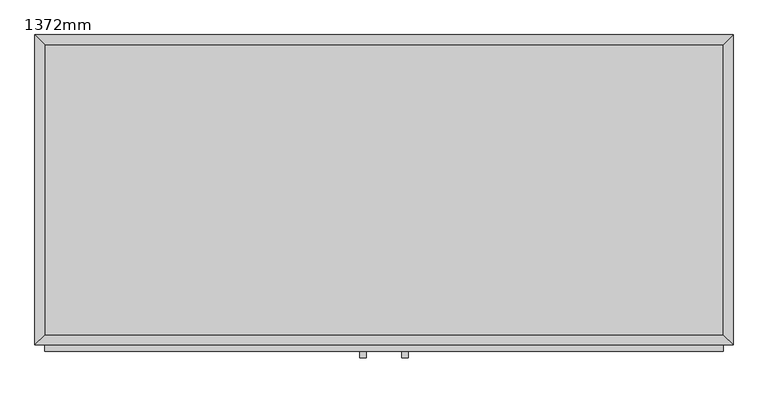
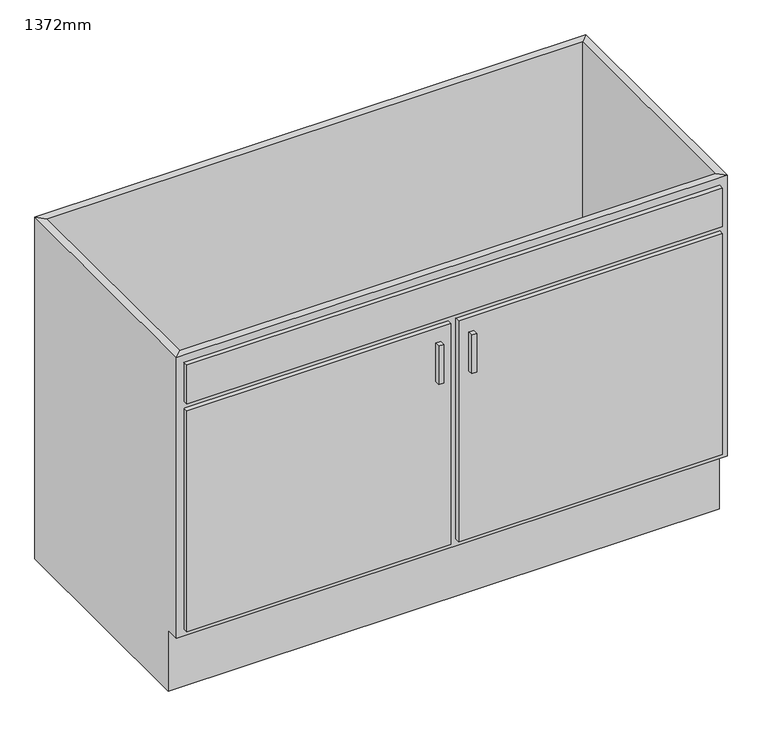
"""IFC4 building model written with IfcOpenShell, lengths in millimetres: proxy geometry, システムキッチン - スケール(小) - 3D : 1372mm."""

from ifc_helpers import new_model, si_unit, frame, origin, place, context, project, spatial, polyline, outline, extrude, faceted_brep, source, transform, mapped, element, save


def proxy_1372mm_5fde8fd9(model_context):
    return source(origin(), model_context, "Body", "SolidModel", [
        faceted_brep([(685.6877049, -590.95, 900.0), (685.6877049, -590.95, 160.0), (-648.2122951, -590.95, 160.0), (-648.2122951, -590.95, 900.0), (-667.2622951, -610.0, 900.0), (704.7377049, -610.0, 900.0), (-667.2622951, -610.0, 160.0), (704.7377049, -610.0, 160.0), (-648.2122951, -575.0, 160.0), (-648.2122951, -19.05, 160.0), (-648.2122951, -19.05, 900.0), (-667.2622951, 0.0, 900.0), (-667.2622951, 0.0, 0.0), (-667.2622951, -575.0, 0.0), (-667.2622951, -575.0, 160.0), (685.6877049, -19.05, 160.0), (685.6877049, -19.05, 900.0), (704.7377049, 0.0, 900.0), (704.7377049, 0.0, 0.0), (685.6877049, -575.0, 160.0), (704.7377049, -575.0, 160.0), (704.7377049, -575.0, 0.0)], [[[0, 1, 2, 3]], [[0, 3, 4, 5]], [[5, 4, 6, 7]], [[2, 1, 7, 6]], [[3, 2, 8, 9, 10]], [[4, 3, 10, 11]], [[6, 4, 11, 12, 13, 14]], [[2, 6, 14, 8]], [[10, 9, 15, 16]], [[11, 10, 16, 17]], [[12, 11, 17, 18]], [[1, 0, 16, 15, 19]], [[0, 5, 17, 16]], [[5, 7, 20, 21, 18, 17]], [[7, 1, 19, 20]], [[8, 19, 15, 9]], [[18, 21, 13, 12]], [[13, 21, 20, 19, 8, 14]]]),
        extrude(outline(polyline([(-16.1872951, -635.4), (-28.8872951, -635.4), (-28.8872951, -622.7), (-16.1872951, -622.7), (-16.1872951, -635.4)])), frame((0.0, 0.0, 620.6), z_axis=(0.0, 0.0, 1.0), x_axis=(1.0, 0.0, 0.0)), (0.0, 0.0, 1.0), 101.6),
        extrude(outline(polyline([(66.3627049, -635.4), (53.6627049, -635.4), (53.6627049, -622.7), (66.3627049, -622.7), (66.3627049, -635.4)])), frame((0.0, 0.0, 620.6), z_axis=(0.0, 0.0, 1.0), x_axis=(1.0, 0.0, 0.0)), (0.0, 0.0, 1.0), 101.6),
        extrude(outline(polyline([(9.2127049, -622.7), (-648.2122951, -622.7), (-648.2122951, -610.0), (9.2127049, -610.0), (9.2127049, -622.7)])), frame((0.0, 0.0, 179.05), z_axis=(0.0, 0.0, 1.0), x_axis=(1.0, 0.0, 0.0)), (0.0, 0.0, 1.0), 581.25),
        extrude(outline(polyline([(685.6877049, -622.7), (28.2627049, -622.7), (28.2627049, -610.0), (685.6877049, -610.0), (685.6877049, -622.7)])), frame((0.0, 0.0, 179.05), z_axis=(0.0, 0.0, 1.0), x_axis=(1.0, 0.0, 0.0)), (0.0, 0.0, 1.0), 581.25),
        extrude(outline(polyline([(685.6877049, -622.7), (-648.2122951, -622.7), (-648.2122951, -610.0), (685.6877049, -610.0), (685.6877049, -622.7)])), frame((0.0, 0.0, 779.35), z_axis=(0.0, 0.0, 1.0), x_axis=(1.0, 0.0, 0.0)), (0.0, 0.0, 1.0), 101.6),
        extrude(outline(polyline([(685.6877049, -19.05), (685.6877049, -590.95), (-648.2122951, -590.95), (-648.2122951, -19.05), (685.6877049, -19.05)])), frame((0.0, 0.0, 160.0), z_axis=(0.0, 0.0, 1.0), x_axis=(1.0, 0.0, 0.0)), (0.0, 0.0, 1.0), 19.05),
    ])


if __name__ == "__main__":
    model = new_model("IFC4")
    model_context = context("Model", 3, world=origin())
    ifc_project = project(units=[si_unit("LENGTHUNIT", "METRE", prefix="MILLI")], contexts=[model_context])
    site = spatial("IfcSite", under=ifc_project)
    building = spatial("IfcBuilding", under=site)
    placement = place(None, origin())
    proxy_1372mm_shape = proxy_1372mm_5fde8fd9(model_context)
    element("IfcBuildingElementProxy", 1, Name="システムキッチン - スケール(小) - 3D : 1372mm", ObjectType="システムキッチン - スケール(小) - 3D : 1372mm", at=placement, inside=building, context=model_context, shape_type="MappedRepresentation", body=[
        mapped(proxy_1372mm_shape, transform((0.0, 0.0, 0.0), x_axis=(1.0, 0.0, 0.0), y_axis=(0.0, 1.0, 0.0), z_axis=(0.0, 0.0, 1.0))),
    ])
    save(model, "model.ifc")
